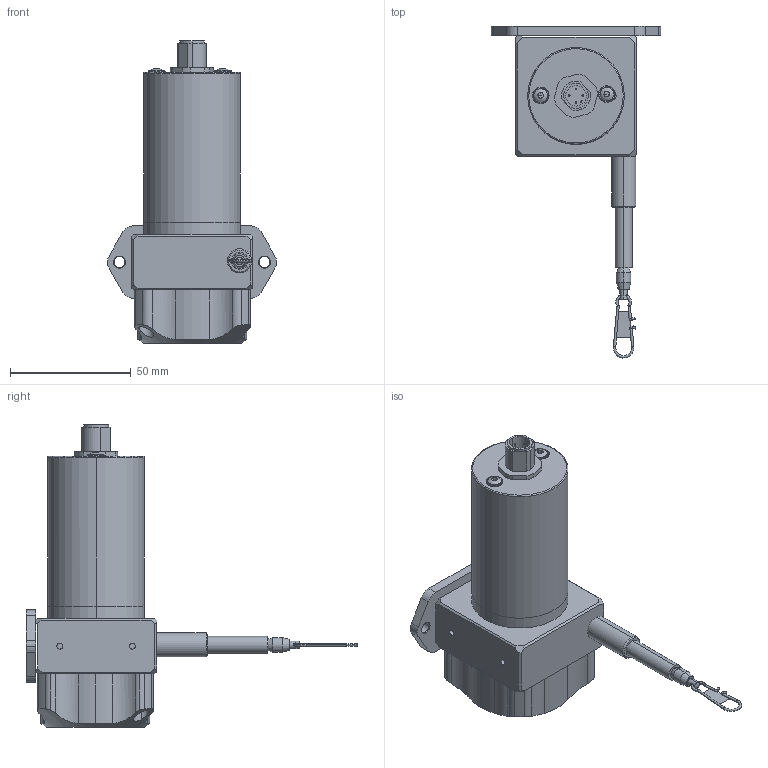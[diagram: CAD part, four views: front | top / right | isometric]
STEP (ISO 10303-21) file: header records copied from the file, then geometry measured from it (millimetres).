
FILE_DESCRIPTION (( 'STEP AP214' ), '1' );
FILE_NAME ('D8.3A1.0125.A223.0000.STEP', '2010-11-24T07:23:28', ( 'admin' ), ( 'Fritz Kübler GmbH' ), 'SwSTEP 2.0', 'SolidWorks 2009', '' );
FILE_SCHEMA (( 'AUTOMOTIVE_DESIGN' ));
Length unit declared in the file: millimetre
Products named in the file (1): D8.3A1.0125.A223.0000
Bounding box: 70 x 137.32 x 125 mm (x, y, z)
Surface area: 29965.3 mm2 (no closed solid volume)
Topology: 0 solids, 20 shells, 266 faces, 770 edges, 510 vertices
Faces by surface type: cylinder 108, plane 98, cone 30, torus 21, bspline 6, sphere 3
Entity records: 14518 total; most frequent: CARTESIAN_POINT 4806, DIRECTION 1395, ORIENTED_EDGE 1362, EDGE_CURVE 756, AXIS2_PLACEMENT_3D 524, VERTEX_POINT 508, VECTOR 347, LINE 347
